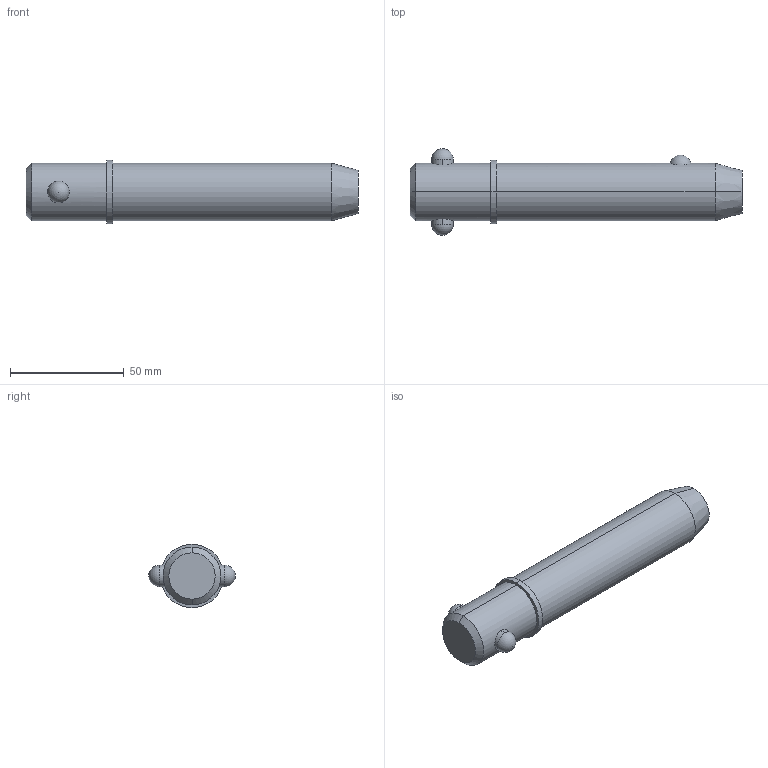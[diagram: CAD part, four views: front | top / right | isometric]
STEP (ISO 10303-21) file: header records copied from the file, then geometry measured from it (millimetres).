
FILE_DESCRIPTION (( 'STEP AP203' ), '1' );
FILE_NAME ('33018.W1030.step', '2024-11-19T17:24:19', ( '' ), ( '' ), 'SwSTEP 2.0', 'SolidWorks 2019', '' );
FILE_SCHEMA (( 'CONFIG_CONTROL_DESIGN' ));
Length unit declared in the file: millimetre
Products named in the file (3): 33018.W1030; Part1_33018.W1030; Part2_33018.W1030
Assembly tree (2 placements, depth 2):
  33018.W1030
    Part1_33018.W1030
    Part2_33018.W1030
Bounding box: 146.05 x 38.1 x 27.94 mm (x, y, z)
Volume: 73530 mm3; surface area: 14239.6 mm2
Topology: 2 solids, 2 shells, 22 faces, 47 edges, 30 vertices
Faces by surface type: cylinder 10, sphere 4, cone 4, plane 4
Entity records: 1071 total; most frequent: CARTESIAN_POINT 314, DIRECTION 110, ORIENTED_EDGE 82, AXIS2_PLACEMENT_3D 48, EDGE_CURVE 41, EDGE_LOOP 27, PERSON_AND_ORGANIZATION 26, VERTEX_POINT 26
